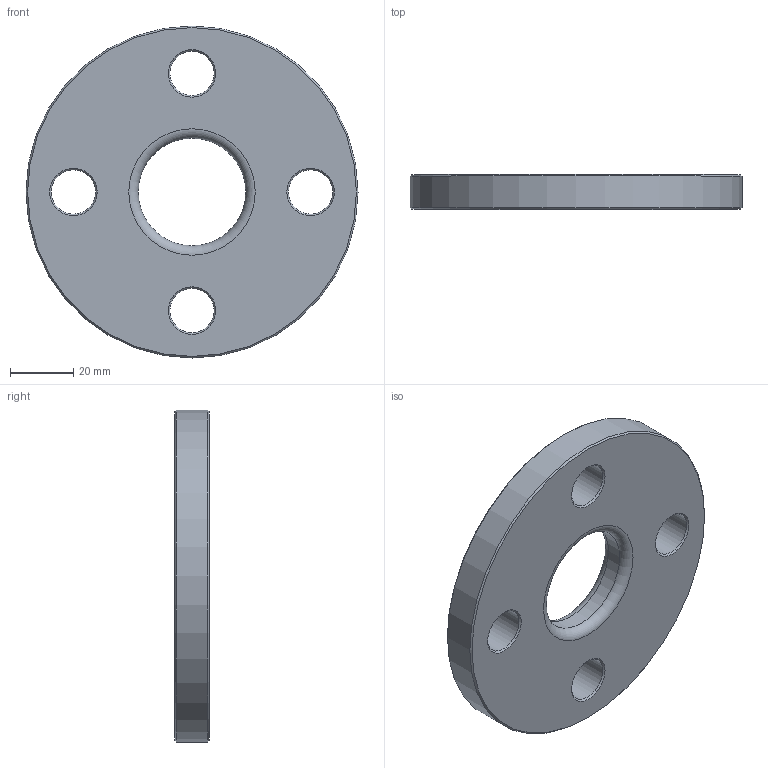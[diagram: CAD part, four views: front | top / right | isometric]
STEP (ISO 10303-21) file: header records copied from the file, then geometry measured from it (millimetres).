
FILE_DESCRIPTION(/* description */ ('Unknown'),/* implementation_level */ '2;1');
FILE_NAME(/* name */ 'FZ025L',/* time_stamp */ '2021-03-15T15:12:04+01:00',/* author */ ('Unknown'),/* organization */ ('Unknown'),/* preprocessor_version */ 'ST-DEVELOPER v16.7',/* originating_system */ 'Solid Edge',/* authorisation */ 'Unknown');
FILE_SCHEMA (('AUTOMOTIVE_DESIGN {1 0 10303 214 3 1 1}'));
Length unit declared in the file: millimetre
Products named in the file (1): FZ025L
Bounding box: 105 x 11 x 105 mm (x, y, z)
Volume: 77932.7 mm3; surface area: 20448 mm2
Topology: 1 solids, 1 shells, 20 faces, 54 edges, 36 vertices
Faces by surface type: cone 10, cylinder 6, plane 2, torus 2
Full cylindrical faces by diameter (mm): 14 x4, 34 x1, 105 x1
Entity records: 494 total; most frequent: DIRECTION 90, CARTESIAN_POINT 69, ORIENTED_EDGE 48, EDGE_LOOP 48, FACE_BOUND 48, AXIS2_PLACEMENT_3D 45, EDGE_CURVE 24, VERTEX_POINT 24
